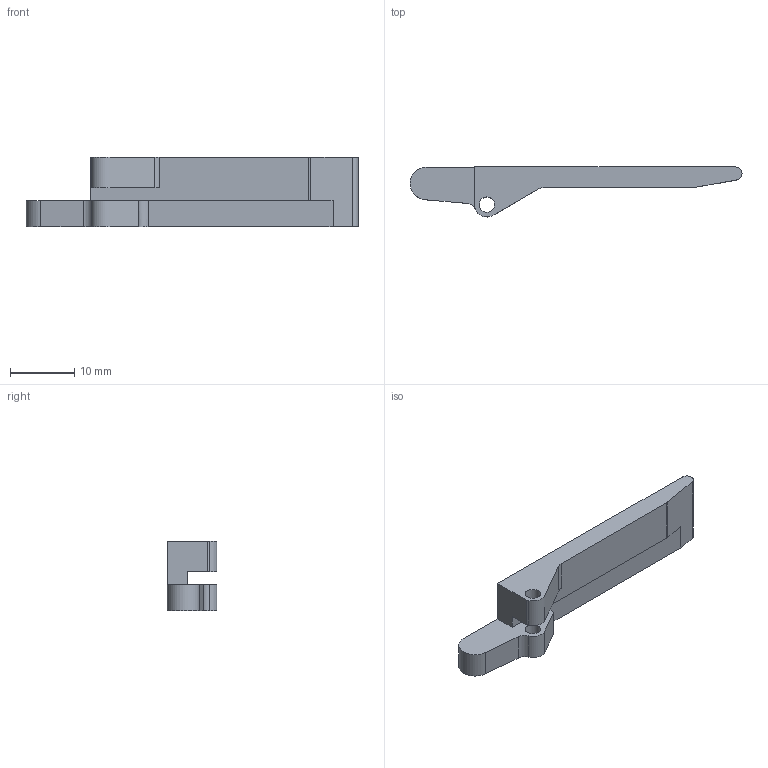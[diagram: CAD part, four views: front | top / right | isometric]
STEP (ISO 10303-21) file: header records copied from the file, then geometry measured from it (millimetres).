
FILE_DESCRIPTION (( 'STEP AP214' ), '1' );
FILE_NAME ('82793-R-F-NLE.STEP', '2018-08-02T14:51:38', ( '' ), ( '' ), 'SwSTEP 2.0', 'SolidWorks 2016', '' );
FILE_SCHEMA (( 'AUTOMOTIVE_DESIGN' ));
Length unit declared in the file: inch
Products named in the file (1): 82793-R-F-NLE
Bounding box: 51.56 x 7.75 x 10.79 mm (x, y, z)
Volume: 1706 mm3; surface area: 1573.4 mm2
Topology: 1 solids, 1 shells, 25 faces, 69 edges, 46 vertices
Faces by surface type: plane 14, cylinder 11
Full cylindrical faces by diameter (mm): 2.381 x2
Entity records: 835 total; most frequent: DIRECTION 141, CARTESIAN_POINT 137, ORIENTED_EDGE 132, EDGE_CURVE 66, AXIS2_PLACEMENT_3D 49, VERTEX_POINT 45, LINE 43, VECTOR 43
